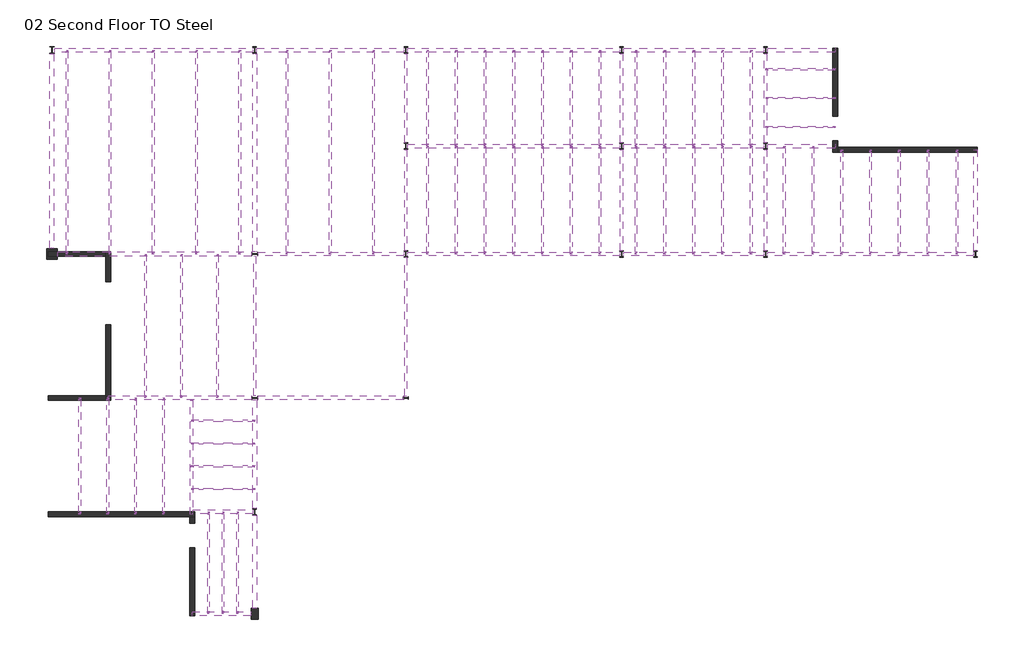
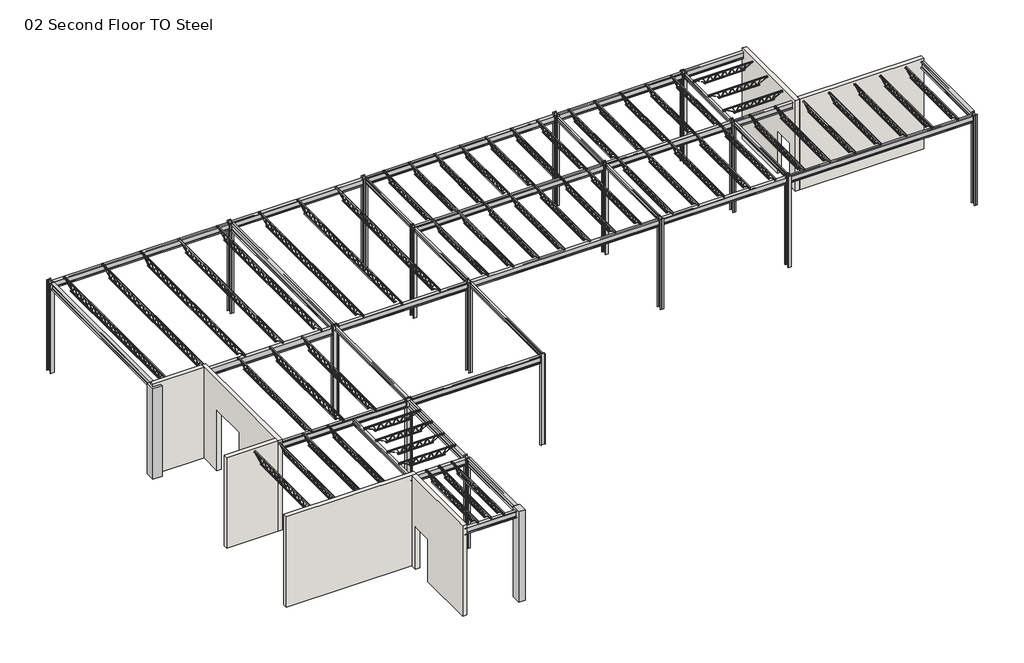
# One storey: 87 beams, 18 columns, 7 walls.
"""IFC4 building model written with IfcOpenShell, lengths in millimetres."""

from ifc_helpers import new_model, si_unit, frame, origin, place, context, project, spatial, polyline, outline, extrude, faceted_brep, transform, mapped, element, save
from components import k_series_bar_joist_angle_web_12k3_1ccca6b7, k_series_bar_joist_angle_web_12k3_bc085ed2, k_series_bar_joist_angle_web_12k3_cd6388da, k_series_bar_joist_angle_web_12k3_13094d3f, k_series_bar_joist_angle_web_12k3_e2e2536a, k_series_bar_joist_angle_web_12k3_59fd12ad, k_series_bar_joist_angle_web_12k3_50cdc32d, k_series_bar_joist_angle_web_12k3_f7e43019, k_series_bar_joist_angle_web_14k6_9ea650d1, k_series_bar_joist_angle_web_14k6_8be7365d, k_series_bar_joist_angle_web_14k6_51fbc8db, w_wide_flange_w12x26_9fd3e897, w_wide_flange_w12x26_d2ca2df1, w_wide_flange_w12x26_3f7f05cf, w_wide_flange_w12x26_1dafd550, w_wide_flange_w12x26_ec9bced6, w_wide_flange_w12x26_57ccea49, w_wide_flange_w12x26_7af0cc8f, w_wide_flange_w12x26_e92df5a3, w_wide_flange_w12x26_cbf4b631, w_wide_flange_w12x26_6214fc0f, w_wide_flange_w12x26_f3c94e94, w_wide_flange_w12x26_b0df8db8, w_wide_flange_w12x26_59120017, w_wide_flange_w12x26_3395753b, w_wide_flange_w12x26_721b4380, w_wide_flange_w14x30_bc8e7e4e, w_wide_flange_w14x30_946aa045, w_wide_flange_w8x10_abd37cec, w_wide_flange_w8x10_7498d693, w_wide_flange_w8x10_a9415ded, w_wide_flange_w8x10_4e543893, w_wide_flange_w8x10_f474adca, column_4a50855d, column_07250704, w_wide_flange_column_w10x30_8d73ec1b, w_wide_flange_column_w12x40_86d17192, w_wide_flange_column_w8x10_6b80fda9

model = new_model("IFC4")

# Units and contexts
model_context = context("Model", 3, world=origin())
ifc_project = project(units=[si_unit("LENGTHUNIT", "METRE", prefix="MILLI")], contexts=[model_context])

# Site, building, storey
site = spatial("IfcSite", under=ifc_project)
building = spatial("IfcBuilding", under=site)
storey = spatial("IfcBuildingStorey", under=building, Name="02 Second Floor TO Steel", Elevation=4445.0)

# Beams
placement = place(None, origin())
k_series_bar_joist_angle_web_12k3_shape = k_series_bar_joist_angle_web_12k3_1ccca6b7(model_context)
element("IfcBeam", 1, ObjectType="K-Series Bar Joist-Angle Web : 12K3", at=placement, inside=storey, context=model_context, shape_type="MappedRepresentation", body=[
    mapped(k_series_bar_joist_angle_web_12k3_shape, transform((3946.8726301, 6964.1746638, 8864.6), x_axis=(0.0, -1.0, 0.0), y_axis=(1.0, 0.0, 0.0), z_axis=(0.0, 0.0, 1.0))),
])
element("IfcBeam", 2, ObjectType="K-Series Bar Joist-Angle Web : 12K3", at=placement, inside=storey, context=model_context, shape_type="MappedRepresentation", body=[
    mapped(k_series_bar_joist_angle_web_12k3_shape, transform((2727.6726301, 6964.1746638, 8864.6), x_axis=(0.0, -1.0, 0.0), y_axis=(1.0, 0.0, 0.0), z_axis=(0.0, 0.0, 1.0))),
])
element("IfcBeam", 3, ObjectType="K-Series Bar Joist-Angle Web : 12K3", at=placement, inside=storey, context=model_context, shape_type="MappedRepresentation", body=[
    mapped(k_series_bar_joist_angle_web_12k3_shape, transform((1508.4726301, 6964.1746638, 8864.6), x_axis=(0.0, -1.0, 0.0), y_axis=(1.0, 0.0, 0.0), z_axis=(0.0, 0.0, 1.0))),
])
element("IfcBeam", 4, ObjectType="K-Series Bar Joist-Angle Web : 12K3", at=placement, inside=storey, context=model_context, shape_type="MappedRepresentation", body=[
    mapped(k_series_bar_joist_angle_web_12k3_shape, transform((289.2726301, 6964.1746638, 8864.6), x_axis=(0.0, -1.0, 0.0), y_axis=(1.0, 0.0, 0.0), z_axis=(0.0, 0.0, 1.0))),
])
element("IfcBeam", 5, ObjectType="K-Series Bar Joist-Angle Web : 12K3", at=placement, inside=storey, context=model_context, shape_type="MappedRepresentation", body=[
    mapped(k_series_bar_joist_angle_web_12k3_shape, transform((-929.9273699, 6964.1746638, 8864.6), x_axis=(0.0, -1.0, 0.0), y_axis=(1.0, 0.0, 0.0), z_axis=(0.0, 0.0, 1.0))),
])
element("IfcBeam", 6, ObjectType="K-Series Bar Joist-Angle Web : 12K3", at=placement, inside=storey, context=model_context, shape_type="MappedRepresentation", body=[
    mapped(k_series_bar_joist_angle_web_12k3_shape, transform((-2149.1273699, 6964.1746638, 8864.6), x_axis=(0.0, -1.0, 0.0), y_axis=(1.0, 0.0, 0.0), z_axis=(0.0, 0.0, 1.0))),
])
element("IfcBeam", 7, ObjectType="K-Series Bar Joist-Angle Web : 12K3", at=placement, inside=storey, context=model_context, shape_type="MappedRepresentation", body=[
    mapped(k_series_bar_joist_angle_web_12k3_shape, transform((-3368.3273699, 6964.1746638, 8864.6), x_axis=(0.0, -1.0, 0.0), y_axis=(1.0, 0.0, 0.0), z_axis=(0.0, 0.0, 1.0))),
])
element("IfcBeam", 8, ObjectType="K-Series Bar Joist-Angle Web : 12K3", at=placement, inside=storey, context=model_context, shape_type="MappedRepresentation", body=[
    mapped(k_series_bar_joist_angle_web_12k3_shape, transform((10347.6726301, 6964.1746638, 8864.6), x_axis=(0.0, -1.0, 0.0), y_axis=(1.0, 0.0, 0.0), z_axis=(0.0, 0.0, 1.0))),
])
element("IfcBeam", 9, ObjectType="K-Series Bar Joist-Angle Web : 12K3", at=placement, inside=storey, context=model_context, shape_type="MappedRepresentation", body=[
    mapped(k_series_bar_joist_angle_web_12k3_shape, transform((9128.4726301, 6964.1746638, 8864.6), x_axis=(0.0, -1.0, 0.0), y_axis=(1.0, 0.0, 0.0), z_axis=(0.0, 0.0, 1.0))),
])
element("IfcBeam", 10, ObjectType="K-Series Bar Joist-Angle Web : 12K3", at=placement, inside=storey, context=model_context, shape_type="MappedRepresentation", body=[
    mapped(k_series_bar_joist_angle_web_12k3_shape, transform((7909.2726301, 6964.1746638, 8864.6), x_axis=(0.0, -1.0, 0.0), y_axis=(1.0, 0.0, 0.0), z_axis=(0.0, 0.0, 1.0))),
])
element("IfcBeam", 11, ObjectType="K-Series Bar Joist-Angle Web : 12K3", at=placement, inside=storey, context=model_context, shape_type="MappedRepresentation", body=[
    mapped(k_series_bar_joist_angle_web_12k3_shape, transform((6690.0726301, 6964.1746638, 8864.6), x_axis=(0.0, -1.0, 0.0), y_axis=(1.0, 0.0, 0.0), z_axis=(0.0, 0.0, 1.0))),
])
element("IfcBeam", 12, ObjectType="K-Series Bar Joist-Angle Web : 12K3", at=placement, inside=storey, context=model_context, shape_type="MappedRepresentation", body=[
    mapped(k_series_bar_joist_angle_web_12k3_shape, transform((5470.8726301, 6964.1746638, 8864.6), x_axis=(0.0, -1.0, 0.0), y_axis=(1.0, 0.0, 0.0), z_axis=(0.0, 0.0, 1.0))),
])
k_series_bar_joist_angle_web_12k3_2_shape = k_series_bar_joist_angle_web_12k3_bc085ed2(model_context)
element("IfcBeam", 13, ObjectType="K-Series Bar Joist-Angle Web : 12K3", at=placement, inside=storey, context=model_context, shape_type="MappedRepresentation", body=[
    mapped(k_series_bar_joist_angle_web_12k3_2_shape, transform((3946.8726301, 2646.1746638, 8864.6), x_axis=(0.0, -1.0, 0.0), y_axis=(1.0, 0.0, 0.0), z_axis=(0.0, 0.0, 1.0))),
])
element("IfcBeam", 14, ObjectType="K-Series Bar Joist-Angle Web : 12K3", at=placement, inside=storey, context=model_context, shape_type="MappedRepresentation", body=[
    mapped(k_series_bar_joist_angle_web_12k3_2_shape, transform((2727.6726301, 2646.1746638, 8864.6), x_axis=(0.0, -1.0, 0.0), y_axis=(1.0, 0.0, 0.0), z_axis=(0.0, 0.0, 1.0))),
])
element("IfcBeam", 15, ObjectType="K-Series Bar Joist-Angle Web : 12K3", at=placement, inside=storey, context=model_context, shape_type="MappedRepresentation", body=[
    mapped(k_series_bar_joist_angle_web_12k3_2_shape, transform((1508.4726301, 2646.1746638, 8864.6), x_axis=(0.0, -1.0, 0.0), y_axis=(1.0, 0.0, 0.0), z_axis=(0.0, 0.0, 1.0))),
])
element("IfcBeam", 16, ObjectType="K-Series Bar Joist-Angle Web : 12K3", at=placement, inside=storey, context=model_context, shape_type="MappedRepresentation", body=[
    mapped(k_series_bar_joist_angle_web_12k3_2_shape, transform((289.2726301, 2646.1746638, 8864.6), x_axis=(0.0, -1.0, 0.0), y_axis=(1.0, 0.0, 0.0), z_axis=(0.0, 0.0, 1.0))),
])
element("IfcBeam", 17, ObjectType="K-Series Bar Joist-Angle Web : 12K3", at=placement, inside=storey, context=model_context, shape_type="MappedRepresentation", body=[
    mapped(k_series_bar_joist_angle_web_12k3_2_shape, transform((-929.9273699, 2646.1746638, 8864.6), x_axis=(0.0, -1.0, 0.0), y_axis=(1.0, 0.0, 0.0), z_axis=(0.0, 0.0, 1.0))),
])
element("IfcBeam", 18, ObjectType="K-Series Bar Joist-Angle Web : 12K3", at=placement, inside=storey, context=model_context, shape_type="MappedRepresentation", body=[
    mapped(k_series_bar_joist_angle_web_12k3_2_shape, transform((-2149.1273699, 2646.1746638, 8864.6), x_axis=(0.0, -1.0, 0.0), y_axis=(1.0, 0.0, 0.0), z_axis=(0.0, 0.0, 1.0))),
])
element("IfcBeam", 19, ObjectType="K-Series Bar Joist-Angle Web : 12K3", at=placement, inside=storey, context=model_context, shape_type="MappedRepresentation", body=[
    mapped(k_series_bar_joist_angle_web_12k3_2_shape, transform((-3368.3273699, 2646.1746638, 8864.6), x_axis=(0.0, -1.0, 0.0), y_axis=(1.0, 0.0, 0.0), z_axis=(0.0, 0.0, 1.0))),
])
element("IfcBeam", 20, ObjectType="K-Series Bar Joist-Angle Web : 12K3", at=placement, inside=storey, context=model_context, shape_type="MappedRepresentation", body=[
    mapped(k_series_bar_joist_angle_web_12k3_2_shape, transform((5470.8726301, 2646.1746638, 8864.6), x_axis=(0.0, 1.0, 0.0), y_axis=(-1.0, 0.0, 0.0), z_axis=(0.0, 0.0, 1.0))),
])
element("IfcBeam", 21, ObjectType="K-Series Bar Joist-Angle Web : 12K3", at=placement, inside=storey, context=model_context, shape_type="MappedRepresentation", body=[
    mapped(k_series_bar_joist_angle_web_12k3_2_shape, transform((6690.0726301, 2646.1746638, 8864.6), x_axis=(0.0, 1.0, 0.0), y_axis=(-1.0, 0.0, 0.0), z_axis=(0.0, 0.0, 1.0))),
])
element("IfcBeam", 22, ObjectType="K-Series Bar Joist-Angle Web : 12K3", at=placement, inside=storey, context=model_context, shape_type="MappedRepresentation", body=[
    mapped(k_series_bar_joist_angle_web_12k3_2_shape, transform((7909.2726301, 2646.1746638, 8864.6), x_axis=(0.0, 1.0, 0.0), y_axis=(-1.0, 0.0, 0.0), z_axis=(0.0, 0.0, 1.0))),
])
element("IfcBeam", 23, ObjectType="K-Series Bar Joist-Angle Web : 12K3", at=placement, inside=storey, context=model_context, shape_type="MappedRepresentation", body=[
    mapped(k_series_bar_joist_angle_web_12k3_2_shape, transform((9128.4726301, 2646.1746638, 8864.6), x_axis=(0.0, 1.0, 0.0), y_axis=(-1.0, 0.0, 0.0), z_axis=(0.0, 0.0, 1.0))),
])
element("IfcBeam", 24, ObjectType="K-Series Bar Joist-Angle Web : 12K3", at=placement, inside=storey, context=model_context, shape_type="MappedRepresentation", body=[
    mapped(k_series_bar_joist_angle_web_12k3_2_shape, transform((10347.6726301, 2646.1746638, 8864.6), x_axis=(0.0, 1.0, 0.0), y_axis=(-1.0, 0.0, 0.0), z_axis=(0.0, 0.0, 1.0))),
])
element("IfcBeam", 25, ObjectType="K-Series Bar Joist-Angle Web : 12K3", at=placement, inside=storey, context=model_context, shape_type="MappedRepresentation", body=[
    mapped(k_series_bar_joist_angle_web_12k3_2_shape, transform((11744.6726301, 2646.1746638, 8864.6), x_axis=(0.0, 1.0, 0.0), y_axis=(-1.0, 0.0, 0.0), z_axis=(0.0, 0.0, 1.0))),
])
element("IfcBeam", 26, ObjectType="K-Series Bar Joist-Angle Web : 12K3", at=placement, inside=storey, context=model_context, shape_type="MappedRepresentation", body=[
    mapped(k_series_bar_joist_angle_web_12k3_2_shape, transform((12963.8726301, 2646.1746638, 8864.6), x_axis=(0.0, 1.0, 0.0), y_axis=(-1.0, 0.0, 0.0), z_axis=(0.0, 0.0, 1.0))),
])
k_series_bar_joist_angle_web_12k3_3_shape = k_series_bar_joist_angle_web_12k3_cd6388da(model_context)
element("IfcBeam", 27, ObjectType="K-Series Bar Joist-Angle Web : 12K3", at=placement, inside=storey, context=model_context, shape_type="MappedRepresentation", body=[
    mapped(k_series_bar_joist_angle_web_12k3_3_shape, transform((-12634.1838699, -12720.8253362, 8864.6), x_axis=(0.0, 1.0, 0.0), y_axis=(-1.0, 0.0, 0.0), z_axis=(0.0, 0.0, 1.0))),
])
element("IfcBeam", 28, ObjectType="K-Series Bar Joist-Angle Web : 12K3", at=placement, inside=storey, context=model_context, shape_type="MappedRepresentation", body=[
    mapped(k_series_bar_joist_angle_web_12k3_3_shape, transform((-12024.5838699, -12720.8253362, 8864.6), x_axis=(0.0, 1.0, 0.0), y_axis=(-1.0, 0.0, 0.0), z_axis=(0.0, 0.0, 1.0))),
])
element("IfcBeam", 29, ObjectType="K-Series Bar Joist-Angle Web : 12K3", at=placement, inside=storey, context=model_context, shape_type="MappedRepresentation", body=[
    mapped(k_series_bar_joist_angle_web_12k3_3_shape, transform((-11414.9838699, -12720.8253362, 8864.6), x_axis=(0.0, 1.0, 0.0), y_axis=(-1.0, 0.0, 0.0), z_axis=(0.0, 0.0, 1.0))),
])
k_series_bar_joist_angle_web_12k3_4_shape = k_series_bar_joist_angle_web_12k3_13094d3f(model_context)
element("IfcBeam", 30, ObjectType="K-Series Bar Joist-Angle Web : 12K3", at=placement, inside=storey, context=model_context, shape_type="MappedRepresentation", body=[
    mapped(k_series_bar_joist_angle_web_12k3_4_shape, transform((12430.4726301, 8183.3746638, 8864.6), x_axis=(1.0, 0.0, 0.0), y_axis=(0.0, 1.0, 0.0), z_axis=(0.0, 0.0, 1.0))),
])
element("IfcBeam", 31, ObjectType="K-Series Bar Joist-Angle Web : 12K3", at=placement, inside=storey, context=model_context, shape_type="MappedRepresentation", body=[
    mapped(k_series_bar_joist_angle_web_12k3_4_shape, transform((12430.4726301, 6964.1746638, 8864.6), x_axis=(1.0, 0.0, 0.0), y_axis=(0.0, 1.0, 0.0), z_axis=(0.0, 0.0, 1.0))),
])
element("IfcBeam", 32, ObjectType="K-Series Bar Joist-Angle Web : 12K3", at=placement, inside=storey, context=model_context, shape_type="MappedRepresentation", body=[
    mapped(k_series_bar_joist_angle_web_12k3_4_shape, transform((12430.4726301, 5744.9746638, 8864.6), x_axis=(1.0, 0.0, 0.0), y_axis=(0.0, 1.0, 0.0), z_axis=(0.0, 0.0, 1.0))),
])
k_series_bar_joist_angle_web_12k3_5_shape = k_series_bar_joist_angle_web_12k3_e2e2536a(model_context)
element("IfcBeam", 33, ObjectType="K-Series Bar Joist-Angle Web : 12K3", at=placement, inside=storey, context=model_context, shape_type="MappedRepresentation", body=[
    mapped(k_series_bar_joist_angle_web_12k3_5_shape, transform((14183.0726301, 2569.9746638, 8864.6), x_axis=(0.0, 1.0, 0.0), y_axis=(-1.0, 0.0, 0.0), z_axis=(0.0, 0.0, 1.0))),
])
element("IfcBeam", 34, ObjectType="K-Series Bar Joist-Angle Web : 12K3", at=placement, inside=storey, context=model_context, shape_type="MappedRepresentation", body=[
    mapped(k_series_bar_joist_angle_web_12k3_5_shape, transform((15402.2726301, 2569.9746638, 8864.6), x_axis=(0.0, 1.0, 0.0), y_axis=(-1.0, 0.0, 0.0), z_axis=(0.0, 0.0, 1.0))),
])
element("IfcBeam", 35, ObjectType="K-Series Bar Joist-Angle Web : 12K3", at=placement, inside=storey, context=model_context, shape_type="MappedRepresentation", body=[
    mapped(k_series_bar_joist_angle_web_12k3_5_shape, transform((16621.4726301, 2569.9746638, 8864.6), x_axis=(0.0, 1.0, 0.0), y_axis=(-1.0, 0.0, 0.0), z_axis=(0.0, 0.0, 1.0))),
])
element("IfcBeam", 36, ObjectType="K-Series Bar Joist-Angle Web : 12K3", at=placement, inside=storey, context=model_context, shape_type="MappedRepresentation", body=[
    mapped(k_series_bar_joist_angle_web_12k3_5_shape, transform((17840.6726301, 2569.9746638, 8864.6), x_axis=(0.0, 1.0, 0.0), y_axis=(-1.0, 0.0, 0.0), z_axis=(0.0, 0.0, 1.0))),
])
element("IfcBeam", 37, ObjectType="K-Series Bar Joist-Angle Web : 12K3", at=placement, inside=storey, context=model_context, shape_type="MappedRepresentation", body=[
    mapped(k_series_bar_joist_angle_web_12k3_5_shape, transform((19059.8726301, 2569.9746638, 8864.6), x_axis=(0.0, 1.0, 0.0), y_axis=(-1.0, 0.0, 0.0), z_axis=(0.0, 0.0, 1.0))),
])
k_series_bar_joist_angle_web_12k3_6_shape = k_series_bar_joist_angle_web_12k3_59fd12ad(model_context)
element("IfcBeam", 38, ObjectType="K-Series Bar Joist-Angle Web : 12K3", at=placement, inside=storey, context=model_context, shape_type="MappedRepresentation", body=[
    mapped(k_series_bar_joist_angle_web_12k3_6_shape, transform((-16907.4925699, -8199.6253362, 8864.6), x_axis=(0.0, 1.0, 0.0), y_axis=(-1.0, 0.0, 0.0), z_axis=(0.0, 0.0, 1.0))),
])
element("IfcBeam", 39, ObjectType="K-Series Bar Joist-Angle Web : 12K3", at=placement, inside=storey, context=model_context, shape_type="MappedRepresentation", body=[
    mapped(k_series_bar_joist_angle_web_12k3_6_shape, transform((-15726.8751699, -8199.6253362, 8864.6), x_axis=(0.0, 1.0, 0.0), y_axis=(-1.0, 0.0, 0.0), z_axis=(0.0, 0.0, 1.0))),
])
element("IfcBeam", 40, ObjectType="K-Series Bar Joist-Angle Web : 12K3", at=placement, inside=storey, context=model_context, shape_type="MappedRepresentation", body=[
    mapped(k_series_bar_joist_angle_web_12k3_6_shape, transform((-14546.2577699, -8199.6253362, 8864.6), x_axis=(0.0, 1.0, 0.0), y_axis=(-1.0, 0.0, 0.0), z_axis=(0.0, 0.0, 1.0))),
])
k_series_bar_joist_angle_web_12k3_7_shape = k_series_bar_joist_angle_web_12k3_50cdc32d(model_context)
element("IfcBeam", 41, ObjectType="K-Series Bar Joist-Angle Web : 12K3", at=placement, inside=storey, context=model_context, shape_type="MappedRepresentation", body=[
    mapped(k_series_bar_joist_angle_web_12k3_7_shape, transform((-12022.6788699, -6701.0253362, 8864.6), x_axis=(1.0, 0.0, 0.0), y_axis=(0.0, 1.0, 0.0), z_axis=(0.0, 0.0, 1.0))),
])
element("IfcBeam", 42, ObjectType="K-Series Bar Joist-Angle Web : 12K3", at=placement, inside=storey, context=model_context, shape_type="MappedRepresentation", body=[
    mapped(k_series_bar_joist_angle_web_12k3_7_shape, transform((-12022.6788699, -7666.2253362, 8864.6), x_axis=(1.0, 0.0, 0.0), y_axis=(0.0, 1.0, 0.0), z_axis=(0.0, 0.0, 1.0))),
])
element("IfcBeam", 43, ObjectType="K-Series Bar Joist-Angle Web : 12K3", at=placement, inside=storey, context=model_context, shape_type="MappedRepresentation", body=[
    mapped(k_series_bar_joist_angle_web_12k3_7_shape, transform((-12022.6788699, -8631.4253362, 8864.6), x_axis=(1.0, 0.0, 0.0), y_axis=(0.0, 1.0, 0.0), z_axis=(0.0, 0.0, 1.0))),
])
element("IfcBeam", 44, ObjectType="K-Series Bar Joist-Angle Web : 12K3", at=placement, inside=storey, context=model_context, shape_type="MappedRepresentation", body=[
    mapped(k_series_bar_joist_angle_web_12k3_7_shape, transform((-12022.6788699, -9596.6253362, 8864.6), x_axis=(1.0, 0.0, 0.0), y_axis=(0.0, 1.0, 0.0), z_axis=(0.0, 0.0, 1.0))),
])
k_series_bar_joist_angle_web_12k3_8_shape = k_series_bar_joist_angle_web_12k3_f7e43019(model_context)
element("IfcBeam", 45, ObjectType="K-Series Bar Joist-Angle Web : 12K3", at=placement, inside=storey, context=model_context, shape_type="MappedRepresentation", body=[
    mapped(k_series_bar_joist_angle_web_12k3_8_shape, transform((-15306.3273699, -2687.8253362, 8864.6), x_axis=(0.0, -1.0, 0.0), y_axis=(1.0, 0.0, 0.0), z_axis=(0.0, 0.0, 1.0))),
])
k_series_bar_joist_angle_web_14k6_shape = k_series_bar_joist_angle_web_14k6_9ea650d1(model_context)
element("IfcBeam", 46, ObjectType="K-Series Bar Joist-Angle Web : 14K6", at=placement, inside=storey, context=model_context, shape_type="MappedRepresentation", body=[
    mapped(k_series_bar_joist_angle_web_14k6_shape, transform((-18633.7273699, 4678.1746638, 8839.2), x_axis=(0.0, 1.0, 0.0), y_axis=(-1.0, 0.0, 0.0), z_axis=(0.0, 0.0, 1.0))),
])
element("IfcBeam", 47, ObjectType="K-Series Bar Joist-Angle Web : 14K6", at=placement, inside=storey, context=model_context, shape_type="MappedRepresentation", body=[
    mapped(k_series_bar_joist_angle_web_14k6_shape, transform((-16804.9273699, 4678.1746638, 8839.2), x_axis=(0.0, 1.0, 0.0), y_axis=(-1.0, 0.0, 0.0), z_axis=(0.0, 0.0, 1.0))),
])
element("IfcBeam", 48, ObjectType="K-Series Bar Joist-Angle Web : 14K6", at=placement, inside=storey, context=model_context, shape_type="MappedRepresentation", body=[
    mapped(k_series_bar_joist_angle_web_14k6_shape, transform((-14976.1273699, 4678.1746638, 8839.2), x_axis=(0.0, 1.0, 0.0), y_axis=(-1.0, 0.0, 0.0), z_axis=(0.0, 0.0, 1.0))),
])
element("IfcBeam", 49, ObjectType="K-Series Bar Joist-Angle Web : 14K6", at=placement, inside=storey, context=model_context, shape_type="MappedRepresentation", body=[
    mapped(k_series_bar_joist_angle_web_14k6_shape, transform((-13147.3273699, 4678.1746638, 8839.2), x_axis=(0.0, 1.0, 0.0), y_axis=(-1.0, 0.0, 0.0), z_axis=(0.0, 0.0, 1.0))),
])
element("IfcBeam", 50, ObjectType="K-Series Bar Joist-Angle Web : 14K6", at=placement, inside=storey, context=model_context, shape_type="MappedRepresentation", body=[
    mapped(k_series_bar_joist_angle_web_14k6_shape, transform((-11318.5273699, 4678.1746638, 8839.2), x_axis=(0.0, 1.0, 0.0), y_axis=(-1.0, 0.0, 0.0), z_axis=(0.0, 0.0, 1.0))),
])
element("IfcBeam", 51, ObjectType="K-Series Bar Joist-Angle Web : 14K6", at=placement, inside=storey, context=model_context, shape_type="MappedRepresentation", body=[
    mapped(k_series_bar_joist_angle_web_14k6_shape, transform((-9311.9273699, 4678.1746638, 8839.2), x_axis=(0.0, 1.0, 0.0), y_axis=(-1.0, 0.0, 0.0), z_axis=(0.0, 0.0, 1.0))),
])
element("IfcBeam", 52, ObjectType="K-Series Bar Joist-Angle Web : 14K6", at=placement, inside=storey, context=model_context, shape_type="MappedRepresentation", body=[
    mapped(k_series_bar_joist_angle_web_14k6_shape, transform((-7483.1273699, 4678.1746638, 8839.2), x_axis=(0.0, 1.0, 0.0), y_axis=(-1.0, 0.0, 0.0), z_axis=(0.0, 0.0, 1.0))),
])
element("IfcBeam", 53, ObjectType="K-Series Bar Joist-Angle Web : 14K6", at=placement, inside=storey, context=model_context, shape_type="MappedRepresentation", body=[
    mapped(k_series_bar_joist_angle_web_14k6_shape, transform((-5654.3273699, 4678.1746638, 8839.2), x_axis=(0.0, 1.0, 0.0), y_axis=(-1.0, 0.0, 0.0), z_axis=(0.0, 0.0, 1.0))),
])
k_series_bar_joist_angle_web_14k6_2_shape = k_series_bar_joist_angle_web_14k6_8be7365d(model_context)
element("IfcBeam", 54, ObjectType="K-Series Bar Joist-Angle Web : 14K6", at=placement, inside=storey, context=model_context, shape_type="MappedRepresentation", body=[
    mapped(k_series_bar_joist_angle_web_14k6_2_shape, transform((-12258.3273699, -2687.8253362, 8839.2), x_axis=(0.0, -1.0, 0.0), y_axis=(1.0, 0.0, 0.0), z_axis=(0.0, 0.0, 1.0))),
])
element("IfcBeam", 55, ObjectType="K-Series Bar Joist-Angle Web : 14K6", at=placement, inside=storey, context=model_context, shape_type="MappedRepresentation", body=[
    mapped(k_series_bar_joist_angle_web_14k6_2_shape, transform((-13782.3273699, -2687.8253362, 8839.2), x_axis=(0.0, -1.0, 0.0), y_axis=(1.0, 0.0, 0.0), z_axis=(0.0, 0.0, 1.0))),
])
k_series_bar_joist_angle_web_14k6_3_shape = k_series_bar_joist_angle_web_14k6_51fbc8db(model_context)
element("IfcBeam", 56, ObjectType="K-Series Bar Joist-Angle Web : 14K6", at=placement, inside=storey, context=model_context, shape_type="MappedRepresentation", body=[
    mapped(k_series_bar_joist_angle_web_14k6_3_shape, transform((-18088.1099699, -8199.6253362, 8839.2), x_axis=(0.0, 1.0, 0.0), y_axis=(-1.0, 0.0, 0.0), z_axis=(0.0, 0.0, 1.0))),
])
w_wide_flange_w12x26_shape = w_wide_flange_w12x26_9fd3e897(model_context)
element("IfcBeam", 57, ObjectType="W-Wide Flange : W12x26", at=placement, inside=storey, context=model_context, shape_type="MappedRepresentation", body=[
    mapped(w_wide_flange_w12x26_shape, transform((7909.2726301, 8996.1746638, 8798.56), x_axis=(1.0, 0.0, 0.0), y_axis=(0.0, 1.0, 0.0), z_axis=(0.0, 0.0, 1.0))),
])
element("IfcBeam", 58, ObjectType="W-Wide Flange : W12x26", at=placement, inside=storey, context=model_context, shape_type="MappedRepresentation", body=[
    mapped(w_wide_flange_w12x26_shape, transform((7909.2726301, 4932.1746638, 8798.56), x_axis=(1.0, 0.0, 0.0), y_axis=(0.0, 1.0, 0.0), z_axis=(0.0, 0.0, 1.0))),
])
element("IfcBeam", 59, ObjectType="W-Wide Flange : W12x26", at=placement, inside=storey, context=model_context, shape_type="MappedRepresentation", body=[
    mapped(w_wide_flange_w12x26_shape, transform((7909.2726301, 360.1746638, 8798.56), x_axis=(-1.0, 0.0, 0.0), y_axis=(0.0, -1.0, 0.0), z_axis=(0.0, 0.0, 1.0))),
])
w_wide_flange_w12x26_2_shape = w_wide_flange_w12x26_d2ca2df1(model_context)
element("IfcBeam", 60, ObjectType="W-Wide Flange : W12x26", at=placement, inside=storey, context=model_context, shape_type="MappedRepresentation", body=[
    mapped(w_wide_flange_w12x26_2_shape, transform((15402.2726301, 360.1746638, 8798.56), x_axis=(1.0, 0.0, 0.0), y_axis=(0.0, 1.0, 0.0), z_axis=(0.0, 0.0, 1.0))),
])
w_wide_flange_w12x26_3_shape = w_wide_flange_w12x26_3f7f05cf(model_context)
element("IfcBeam", 61, ObjectType="W-Wide Flange : W12x26", at=placement, inside=storey, context=model_context, shape_type="MappedRepresentation", body=[
    mapped(w_wide_flange_w12x26_3_shape, transform((-10679.7173699, -8148.8253362, 8798.56), x_axis=(0.0, -1.0, 0.0), y_axis=(1.0, 0.0, 0.0), z_axis=(0.0, 0.0, 1.0))),
])
w_wide_flange_w12x26_4_shape = w_wide_flange_w12x26_1dafd550(model_context)
element("IfcBeam", 62, ObjectType="W-Wide Flange : W12x26", at=placement, inside=storey, context=model_context, shape_type="MappedRepresentation", body=[
    mapped(w_wide_flange_w12x26_4_shape, transform((-14974.2223699, 8996.1746638, 8798.56), x_axis=(1.0, 0.0, 0.0), y_axis=(0.0, 1.0, 0.0), z_axis=(0.0, 0.0, 1.0))),
])
w_wide_flange_w12x26_5_shape = w_wide_flange_w12x26_ec9bced6(model_context)
element("IfcBeam", 63, ObjectType="W-Wide Flange : W12x26", at=placement, inside=storey, context=model_context, shape_type="MappedRepresentation", body=[
    mapped(w_wide_flange_w12x26_5_shape, transform((-10681.6223699, -12720.8253362, 8862.06), x_axis=(0.0008823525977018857, 0.9999996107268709, 0.0), y_axis=(-0.9999996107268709, 0.0008823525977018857, 0.0), z_axis=(0.0, 0.0, 1.0))),
])
w_wide_flange_w12x26_6_shape = w_wide_flange_w12x26_57ccea49(model_context)
element("IfcBeam", 64, ObjectType="W-Wide Flange : W12x26", at=placement, inside=storey, context=model_context, shape_type="MappedRepresentation", body=[
    mapped(w_wide_flange_w12x26_6_shape, transform((-7483.1273699, -5735.8253362, 8798.56), x_axis=(1.0, 0.0, 0.0), y_axis=(0.0, 1.0, 0.0), z_axis=(0.0, 0.0, 1.0))),
])
w_wide_flange_w12x26_7_shape = w_wide_flange_w12x26_7af0cc8f(model_context)
element("IfcBeam", 65, ObjectType="W-Wide Flange : W12x26", at=placement, inside=storey, context=model_context, shape_type="MappedRepresentation", body=[
    mapped(w_wide_flange_w12x26_7_shape, transform((-19268.7273699, 4678.1746638, 8862.06), x_axis=(0.0, 1.0, 0.0), y_axis=(-1.0, 0.0, 0.0), z_axis=(0.0, 0.0, 1.0))),
])
w_wide_flange_w12x26_8_shape = w_wide_flange_w12x26_e92df5a3(model_context)
element("IfcBeam", 66, ObjectType="W-Wide Flange : W12x26", at=placement, inside=storey, context=model_context, shape_type="MappedRepresentation", body=[
    mapped(w_wide_flange_w12x26_8_shape, transform((-12004.3273699, -14879.8253362, 8798.56), x_axis=(-1.0, 0.0, 0.0), y_axis=(0.0, -1.0, 0.0), z_axis=(0.0, 0.0, 1.0))),
])
w_wide_flange_w12x26_9_shape = w_wide_flange_w12x26_cbf4b631(model_context)
element("IfcBeam", 67, ObjectType="W-Wide Flange : W12x26", at=placement, inside=storey, context=model_context, shape_type="MappedRepresentation", body=[
    mapped(w_wide_flange_w12x26_9_shape, transform((12430.4726301, 8996.1746638, 8862.06), x_axis=(1.0, 0.0, 0.0), y_axis=(0.0, 1.0, 0.0), z_axis=(0.0, 0.0, 1.0))),
])
element("IfcBeam", 68, ObjectType="W-Wide Flange : W12x26", at=placement, inside=storey, context=model_context, shape_type="MappedRepresentation", body=[
    mapped(w_wide_flange_w12x26_9_shape, transform((12430.4726301, 4932.1746638, 8798.56), x_axis=(1.0, 0.0, 0.0), y_axis=(0.0, 1.0, 0.0), z_axis=(0.0, 0.0, 1.0))),
])
w_wide_flange_w12x26_10_shape = w_wide_flange_w12x26_6214fc0f(model_context)
element("IfcBeam", 69, ObjectType="W-Wide Flange : W12x26", at=placement, inside=storey, context=model_context, shape_type="MappedRepresentation", body=[
    mapped(w_wide_flange_w12x26_10_shape, transform((19847.2726301, 2569.9746638, 8862.06), x_axis=(0.0, 1.0, 0.0), y_axis=(-1.0, 0.0, 0.0), z_axis=(0.0, 0.0, 1.0))),
])
w_wide_flange_w12x26_11_shape = w_wide_flange_w12x26_f3c94e94(model_context)
element("IfcBeam", 70, ObjectType="W-Wide Flange : W12x26", at=placement, inside=storey, context=model_context, shape_type="MappedRepresentation", body=[
    mapped(w_wide_flange_w12x26_11_shape, transform((-13780.4223699, -5735.8253362, 8798.56), x_axis=(-1.0, 0.0, 0.0), y_axis=(0.0, -1.0, 0.0), z_axis=(0.0, 0.0, 1.0))),
])
w_wide_flange_w12x26_12_shape = w_wide_flange_w12x26_b0df8db8(model_context)
element("IfcBeam", 71, ObjectType="W-Wide Flange : W12x26", at=placement, inside=storey, context=model_context, shape_type="MappedRepresentation", body=[
    mapped(w_wide_flange_w12x26_12_shape, transform((-12022.6788699, -10561.8253362, 8798.56), x_axis=(-1.0, 0.0, 0.0), y_axis=(0.0, -1.0, 0.0), z_axis=(0.0, 0.0, 1.0))),
])
w_wide_flange_w12x26_13_shape = w_wide_flange_w12x26_59120017(model_context)
element("IfcBeam", 72, ObjectType="W-Wide Flange : W12x26", at=placement, inside=storey, context=model_context, shape_type="MappedRepresentation", body=[
    mapped(w_wide_flange_w12x26_13_shape, transform((289.2726301, 8996.1746638, 8798.56), x_axis=(1.0, 0.0, 0.0), y_axis=(0.0, 1.0, 0.0), z_axis=(0.0, 0.0, 1.0))),
])
element("IfcBeam", 73, ObjectType="W-Wide Flange : W12x26", at=placement, inside=storey, context=model_context, shape_type="MappedRepresentation", body=[
    mapped(w_wide_flange_w12x26_13_shape, transform((289.2726301, 4932.1746638, 8798.56), x_axis=(1.0, 0.0, 0.0), y_axis=(0.0, 1.0, 0.0), z_axis=(0.0, 0.0, 1.0))),
])
element("IfcBeam", 74, ObjectType="W-Wide Flange : W12x26", at=placement, inside=storey, context=model_context, shape_type="MappedRepresentation", body=[
    mapped(w_wide_flange_w12x26_13_shape, transform((289.2726301, 360.1746638, 8798.56), x_axis=(-1.0, 0.0, 0.0), y_axis=(0.0, -1.0, 0.0), z_axis=(0.0, 0.0, 1.0))),
])
w_wide_flange_w12x26_14_shape = w_wide_flange_w12x26_3395753b(model_context)
element("IfcBeam", 75, ObjectType="W-Wide Flange : W12x26", at=placement, inside=storey, context=model_context, shape_type="MappedRepresentation", body=[
    mapped(w_wide_flange_w12x26_14_shape, transform((-7481.2223699, 8996.1746638, 8798.56), x_axis=(1.0, 0.0, 0.0), y_axis=(0.0, 1.0, 0.0), z_axis=(0.0, 0.0, 1.0))),
])
w_wide_flange_w12x26_15_shape = w_wide_flange_w12x26_721b4380(model_context)
element("IfcBeam", 76, ObjectType="W-Wide Flange : W12x26", at=placement, inside=storey, context=model_context, shape_type="MappedRepresentation", body=[
    mapped(w_wide_flange_w12x26_15_shape, transform((-7481.2223699, 360.1746638, 8798.56), x_axis=(-1.0, 0.0, 0.0), y_axis=(0.0, -1.0, 0.0), z_axis=(0.0, 0.0, 1.0))),
])
w_wide_flange_w14x30_shape = w_wide_flange_w14x30_bc8e7e4e(model_context)
element("IfcBeam", 77, ObjectType="W-Wide Flange : W14x30", at=placement, inside=storey, context=model_context, shape_type="MappedRepresentation", body=[
    mapped(w_wide_flange_w14x30_shape, transform((-10679.7173699, 4678.1746638, 8841.74), x_axis=(0.0, 1.0, 0.0), y_axis=(-1.0, 0.0, 0.0), z_axis=(0.0, 0.0, 1.0))),
])
w_wide_flange_w14x30_2_shape = w_wide_flange_w14x30_946aa045(model_context)
element("IfcBeam", 78, ObjectType="W-Wide Flange : W14x30", at=placement, inside=storey, context=model_context, shape_type="MappedRepresentation", body=[
    mapped(w_wide_flange_w14x30_2_shape, transform((-14974.2223699, 360.1746638, 8778.24), x_axis=(-1.0, 0.0, 0.0), y_axis=(0.0, -1.0, 0.0), z_axis=(0.0, 0.0, 1.0))),
])
w_wide_flange_w8x10_shape = w_wide_flange_w8x10_abd37cec(model_context)
element("IfcBeam", 79, ObjectType="W-Wide Flange : W8x10", at=placement, inside=storey, context=model_context, shape_type="MappedRepresentation", body=[
    mapped(w_wide_flange_w8x10_shape, transform((-4282.7273699, 6964.1746638, 8916.797), x_axis=(0.0, -1.0, 0.0), y_axis=(1.0, 0.0, 0.0), z_axis=(0.0, 0.0, 1.0))),
])
element("IfcBeam", 80, ObjectType="W-Wide Flange : W8x10", at=placement, inside=storey, context=model_context, shape_type="MappedRepresentation", body=[
    mapped(w_wide_flange_w8x10_shape, transform((4861.2726301, 6964.1746638, 8853.297), x_axis=(0.0, -1.0, 0.0), y_axis=(1.0, 0.0, 0.0), z_axis=(0.0, 0.0, 1.0))),
])
element("IfcBeam", 81, ObjectType="W-Wide Flange : W8x10", at=placement, inside=storey, context=model_context, shape_type="MappedRepresentation", body=[
    mapped(w_wide_flange_w8x10_shape, transform((10957.2726301, 6964.1746638, 8853.297), x_axis=(0.0, -1.0, 0.0), y_axis=(1.0, 0.0, 0.0), z_axis=(0.0, 0.0, 1.0))),
])
w_wide_flange_w8x10_2_shape = w_wide_flange_w8x10_7498d693(model_context)
element("IfcBeam", 82, ObjectType="W-Wide Flange : W8x10", at=placement, inside=storey, context=model_context, shape_type="MappedRepresentation", body=[
    mapped(w_wide_flange_w8x10_2_shape, transform((10957.2726301, 2646.1746638, 8916.797), x_axis=(0.0, 1.0, 0.0), y_axis=(-1.0, 0.0, 0.0), z_axis=(0.0, 0.0, 1.0))),
])
element("IfcBeam", 83, ObjectType="W-Wide Flange : W8x10", at=placement, inside=storey, context=model_context, shape_type="MappedRepresentation", body=[
    mapped(w_wide_flange_w8x10_2_shape, transform((-4282.7273699, 2646.1746638, 8916.797), x_axis=(0.0, 1.0, 0.0), y_axis=(-1.0, 0.0, 0.0), z_axis=(0.0, 0.0, 1.0))),
])
element("IfcBeam", 84, ObjectType="W-Wide Flange : W8x10", at=placement, inside=storey, context=model_context, shape_type="MappedRepresentation", body=[
    mapped(w_wide_flange_w8x10_2_shape, transform((4861.2726301, 2646.1746638, 8916.797), x_axis=(0.0, -1.0, 0.0), y_axis=(1.0, 0.0, 0.0), z_axis=(0.0, 0.0, 1.0))),
])
w_wide_flange_w8x10_3_shape = w_wide_flange_w8x10_a9415ded(model_context)
element("IfcBeam", 85, ObjectType="W-Wide Flange : W8x10", at=placement, inside=storey, context=model_context, shape_type="MappedRepresentation", body=[
    mapped(w_wide_flange_w8x10_3_shape, transform((-4282.7273699, -2687.8253362, 8916.797), x_axis=(0.0, 1.0, 0.0), y_axis=(-1.0, 0.0, 0.0), z_axis=(0.0, 0.0, 1.0))),
])
w_wide_flange_w8x10_4_shape = w_wide_flange_w8x10_4e543893(model_context)
element("IfcBeam", 86, ObjectType="W-Wide Flange : W8x10", at=placement, inside=storey, context=model_context, shape_type="MappedRepresentation", body=[
    mapped(w_wide_flange_w8x10_4_shape, transform((-10679.7173699, -2687.8253362, 8916.797), x_axis=(0.0, 1.0, 0.0), y_axis=(-1.0, 0.0, 0.0), z_axis=(0.0, 0.0, 1.0))),
])
w_wide_flange_w8x10_5_shape = w_wide_flange_w8x10_f474adca(model_context)
element("IfcBeam", 87, ObjectType="W-Wide Flange : W8x10", at=placement, inside=storey, context=model_context, shape_type="MappedRepresentation", body=[
    mapped(w_wide_flange_w8x10_5_shape, transform((-13365.6403699, -8199.6253362, 8853.297), x_axis=(0.0, 1.0, 0.0), y_axis=(-1.0, 0.0, 0.0), z_axis=(0.0, 0.0, 1.0))),
])

# Columns
column_shape = column_4a50855d(model_context)
element("IfcColumn", 88, ObjectType="Concrete-Rectangular-Column : CIP Column_C2_18\" x 18\"", at=placement, inside=storey, context=model_context, shape_type="MappedRepresentation", body=[
    mapped(column_shape, transform((-19268.7273699, 360.1746638, 0.0), x_axis=(1.0, 0.0, 0.0), y_axis=(0.0, 1.0, 0.0), z_axis=(0.0, 0.0, 1.0))),
])
column_2_shape = column_07250704(model_context)
element("IfcColumn", 89, ObjectType="Concrete-Rectangular-Column : CIP Column_C4_12\" x 18\"", at=placement, inside=storey, context=model_context, shape_type="MappedRepresentation", body=[
    mapped(column_2_shape, transform((-10683.5273699, -14879.8253362, 0.0), x_axis=(1.0, 0.0, 0.0), y_axis=(0.0, 1.0, 0.0), z_axis=(0.0, 0.0, 1.0))),
])
w_wide_flange_column_w10x30_shape = w_wide_flange_column_w10x30_8d73ec1b(model_context)
element("IfcColumn", 90, ObjectType="W-Wide Flange-Column : W10X30", at=placement, inside=storey, context=model_context, shape_type="MappedRepresentation", body=[
    mapped(w_wide_flange_column_w10x30_shape, transform((-10679.7173699, 360.1746638, 0.0), x_axis=(0.0, 1.0, 0.0), y_axis=(-1.0, 0.0, 0.0), z_axis=(0.0, 0.0, 1.0))),
])
element("IfcColumn", 91, ObjectType="W-Wide Flange-Column : W10X30", at=placement, inside=storey, context=model_context, shape_type="MappedRepresentation", body=[
    mapped(w_wide_flange_column_w10x30_shape, transform((-10679.7173699, 8996.1746638, 0.0), x_axis=(-1.0, 0.0, 0.0), y_axis=(0.0, -1.0, 0.0), z_axis=(0.0, 0.0, 1.0))),
])
element("IfcColumn", 92, ObjectType="W-Wide Flange-Column : W10X30", at=placement, inside=storey, context=model_context, shape_type="MappedRepresentation", body=[
    mapped(w_wide_flange_column_w10x30_shape, transform((-4282.7273699, 8996.1746638, 0.0), x_axis=(-1.0, 0.0, 0.0), y_axis=(0.0, -1.0, 0.0), z_axis=(0.0, 0.0, 1.0))),
])
element("IfcColumn", 93, ObjectType="W-Wide Flange-Column : W10X30", at=placement, inside=storey, context=model_context, shape_type="MappedRepresentation", body=[
    mapped(w_wide_flange_column_w10x30_shape, transform((4861.2726301, 8996.1746638, 0.0), x_axis=(-1.0, 0.0, 0.0), y_axis=(0.0, -1.0, 0.0), z_axis=(0.0, 0.0, 1.0))),
])
element("IfcColumn", 94, ObjectType="W-Wide Flange-Column : W10X30", at=placement, inside=storey, context=model_context, shape_type="MappedRepresentation", body=[
    mapped(w_wide_flange_column_w10x30_shape, transform((10957.2726301, 8996.1746638, 0.0), x_axis=(-1.0, 0.0, 0.0), y_axis=(0.0, -1.0, 0.0), z_axis=(0.0, 0.0, 1.0))),
])
element("IfcColumn", 95, ObjectType="W-Wide Flange-Column : W10X30", at=placement, inside=storey, context=model_context, shape_type="MappedRepresentation", body=[
    mapped(w_wide_flange_column_w10x30_shape, transform((-10679.7173699, -5735.8253362, 0.0), x_axis=(0.0, 1.0, 0.0), y_axis=(-1.0, 0.0, 0.0), z_axis=(0.0, 0.0, 1.0))),
])
element("IfcColumn", 96, ObjectType="W-Wide Flange-Column : W10X30", at=placement, inside=storey, context=model_context, shape_type="MappedRepresentation", body=[
    mapped(w_wide_flange_column_w10x30_shape, transform((-10679.7173699, -10561.8253362, 0.0), x_axis=(-1.0, 0.0, 0.0), y_axis=(0.0, -1.0, 0.0), z_axis=(0.0, 0.0, 1.0))),
])
element("IfcColumn", 97, ObjectType="W-Wide Flange-Column : W10X30", at=placement, inside=storey, context=model_context, shape_type="MappedRepresentation", body=[
    mapped(w_wide_flange_column_w10x30_shape, transform((-4282.7273699, 360.1746638, 0.0), x_axis=(1.0, 0.0, 0.0), y_axis=(0.0, 1.0, 0.0), z_axis=(0.0, 0.0, 1.0))),
])
element("IfcColumn", 98, ObjectType="W-Wide Flange-Column : W10X30", at=placement, inside=storey, context=model_context, shape_type="MappedRepresentation", body=[
    mapped(w_wide_flange_column_w10x30_shape, transform((4861.2726301, 360.1746638, 0.0), x_axis=(1.0, 0.0, 0.0), y_axis=(0.0, 1.0, 0.0), z_axis=(0.0, 0.0, 1.0))),
])
element("IfcColumn", 99, ObjectType="W-Wide Flange-Column : W10X30", at=placement, inside=storey, context=model_context, shape_type="MappedRepresentation", body=[
    mapped(w_wide_flange_column_w10x30_shape, transform((10957.2726301, 360.1746638, 0.0), x_axis=(1.0, 0.0, 0.0), y_axis=(0.0, 1.0, 0.0), z_axis=(0.0, 0.0, 1.0))),
])
element("IfcColumn", 100, ObjectType="W-Wide Flange-Column : W10X30", at=placement, inside=storey, context=model_context, shape_type="MappedRepresentation", body=[
    mapped(w_wide_flange_column_w10x30_shape, transform((19847.2726301, 360.1746638, 0.0), x_axis=(1.0, 0.0, 0.0), y_axis=(0.0, 1.0, 0.0), z_axis=(0.0, 0.0, 1.0))),
])
element("IfcColumn", 101, ObjectType="W-Wide Flange-Column : W10X30", at=placement, inside=storey, context=model_context, shape_type="MappedRepresentation", body=[
    mapped(w_wide_flange_column_w10x30_shape, transform((-4282.7273699, 4932.1746638, 0.0), x_axis=(1.0, 0.0, 0.0), y_axis=(0.0, 1.0, 0.0), z_axis=(0.0, 0.0, 1.0))),
])
element("IfcColumn", 102, ObjectType="W-Wide Flange-Column : W10X30", at=placement, inside=storey, context=model_context, shape_type="MappedRepresentation", body=[
    mapped(w_wide_flange_column_w10x30_shape, transform((4861.2726301, 4932.1746638, 0.0), x_axis=(1.0, 0.0, 0.0), y_axis=(0.0, 1.0, 0.0), z_axis=(0.0, 0.0, 1.0))),
])
element("IfcColumn", 103, ObjectType="W-Wide Flange-Column : W10X30", at=placement, inside=storey, context=model_context, shape_type="MappedRepresentation", body=[
    mapped(w_wide_flange_column_w10x30_shape, transform((10957.2726301, 4932.1746638, 0.0), x_axis=(1.0, 0.0, 0.0), y_axis=(0.0, 1.0, 0.0), z_axis=(0.0, 0.0, 1.0))),
])
w_wide_flange_column_w12x40_shape = w_wide_flange_column_w12x40_86d17192(model_context)
element("IfcColumn", 104, ObjectType="W-Wide Flange-Column : W12X40", at=placement, inside=storey, context=model_context, shape_type="MappedRepresentation", body=[
    mapped(w_wide_flange_column_w12x40_shape, transform((-19268.7273699, 8996.1746638, 0.0), x_axis=(1.0, 0.0, 0.0), y_axis=(0.0, 1.0, 0.0), z_axis=(0.0, 0.0, 1.0))),
])
w_wide_flange_column_w8x10_shape = w_wide_flange_column_w8x10_6b80fda9(model_context)
element("IfcColumn", 105, ObjectType="W-Wide Flange-Column : W8X10", at=placement, inside=storey, context=model_context, shape_type="MappedRepresentation", body=[
    mapped(w_wide_flange_column_w8x10_shape, transform((-4282.7273699, -5735.8253362, 0.0), x_axis=(0.0, 1.0, 0.0), y_axis=(-1.0, 0.0, 0.0), z_axis=(0.0, 0.0, 1.0))),
])

# Walls
element("IfcWall", 106, ObjectType="Shear Wall_S1_8\" CIP", at=placement, inside=storey, context=model_context, shape_type="Brep", body=[
    faceted_brep([(-16982.7273699, -5837.4253362, 4572.0), (-16982.7273699, -5837.4253362, 9144.0), (-16982.7273699, -5634.2253362, 9144.0), (-16982.7273699, 258.5746638, 9144.0), (-16982.7273699, 461.7746638, 9144.0), (-16982.7273699, 461.7746638, 4572.0), (-16982.7273699, 258.5746638, 4572.0), (-16982.7273699, -808.2253362, 4572.0), (-16982.7273699, -808.2253362, 7620.0), (-16982.7273699, -2637.0253362, 7620.0), (-16982.7273699, -2637.0253362, 4572.0), (-16982.7273699, -5634.2253362, 4572.0), (-16779.5273699, -5837.4253362, 9144.0), (-16779.5273699, -5837.4253362, 4572.0), (-16779.5273699, -2637.0253362, 4572.0), (-16779.5273699, -2637.0253362, 7620.0), (-16779.5273699, -808.2253362, 7620.0), (-16779.5273699, -808.2253362, 4572.0), (-16779.5273699, 461.7746638, 4572.0), (-16779.5273699, 461.7746638, 9144.0)], [[[0, 1, 2, 3, 4, 5, 6, 7, 8, 9, 10, 11]], [[12, 13, 14, 15, 16, 17, 18, 19]], [[13, 0, 11, 10, 14]], [[5, 18, 17, 7, 6]], [[4, 3, 2, 1, 12, 19]], [[8, 16, 15, 9]], [[16, 8, 7, 17]], [[9, 15, 14, 10]], [[1, 0, 13, 12]], [[5, 4, 19, 18]]]),
])
element("IfcWall", 107, ObjectType="Shear Wall_S1_8\" CIP", at=placement, inside=storey, context=model_context, shape_type="SweptSolid", body=[
    extrude(outline(polyline([(-19421.1273699, -5634.2253362), (-16982.7273699, -5634.2253362), (-16982.7273699, -5837.4253362), (-19421.1273699, -5837.4253362), (-19421.1273699, -5634.2253362)])), frame((0.0, 0.0, 4572.0), z_axis=(0.0, 0.0, 1.0), x_axis=(1.0, 0.0, 0.0)), (0.0, 0.0, 1.0), 4572.0),
])
element("IfcWall", 108, ObjectType="Shear Wall_S1_8\" CIP", at=placement, inside=storey, context=model_context, shape_type="Brep", body=[
    faceted_brep([(-19421.1273699, -10765.0253362, 4572.0), (-13426.7273699, -10765.0253362, 4572.0), (-13223.5273699, -10765.0253362, 4572.0), (-13223.5273699, -10765.0253362, 9144.0), (-13426.7273699, -10765.0253362, 9144.0), (-19421.1273699, -10765.0253362, 9144.0), (-19421.1273699, -10561.8253362, 4572.0), (-19421.1273699, -10561.8253362, 9144.0), (-13223.5273699, -10561.8253362, 9144.0), (-13223.5273699, -10561.8253362, 4572.0)], [[[0, 1, 2, 3, 4, 5]], [[6, 7, 8, 9]], [[2, 1, 0, 6, 9]], [[5, 4, 3, 8, 7]], [[0, 5, 7, 6]], [[3, 2, 9, 8]]]),
])
element("IfcWall", 109, ObjectType="Shear Wall_S1_8\" CIP", at=placement, inside=storey, context=model_context, shape_type="SweptSolid", body=[
    extrude(outline(polyline([(-10765.0253362, 9144.0), (-10765.0253362, 4572.0), (-11050.7753362, 4572.0), (-11050.7753362, 6705.6), (-12085.8253362, 6705.6), (-12085.8253362, 4572.0), (-14956.0253362, 4572.0), (-14956.0253362, 9144.0), (-10765.0253362, 9144.0)])), frame((-13426.7273699, 0.0, 0.0), z_axis=(1.0, 0.0, 0.0), x_axis=(0.0, 1.0, 0.0)), (0.0, 0.0, 1.0), 203.2),
])
element("IfcWall", 110, ObjectType="Shear Wall_S1_8\" CIP", at=placement, inside=storey, context=model_context, shape_type="Brep", body=[
    faceted_brep([(13802.0726301, 4678.1746638, 4572.0), (13802.0726301, 4678.1746638, 9144.0), (13802.0726301, 9072.3746638, 9144.0), (13802.0726301, 9072.3746638, 4572.0), (13802.0726301, 6202.1746638, 4572.0), (13802.0726301, 6202.1746638, 6705.6), (13802.0726301, 5167.1246638, 6705.6), (13802.0726301, 5167.1246638, 4572.0), (14005.2726301, 4678.1746638, 9144.0), (14005.2726301, 4678.1746638, 4572.0), (14005.2726301, 4881.3746638, 4572.0), (14005.2726301, 5167.1246638, 4572.0), (14005.2726301, 5167.1246638, 6705.6), (14005.2726301, 6202.1746638, 6705.6), (14005.2726301, 6202.1746638, 4572.0), (14005.2726301, 9072.3746638, 4572.0), (14005.2726301, 9072.3746638, 9144.0), (14005.2726301, 4881.3746638, 9144.0)], [[[0, 1, 2, 3, 4, 5, 6, 7]], [[8, 9, 10, 11, 12, 13, 14, 15, 16, 17]], [[3, 15, 14, 4]], [[9, 0, 7, 11, 10]], [[2, 1, 8, 17, 16]], [[3, 2, 16, 15]], [[5, 13, 12, 6]], [[13, 5, 4, 14]], [[6, 12, 11, 7]], [[1, 0, 9, 8]]]),
])
element("IfcWall", 111, ObjectType="Shear Wall_S1_8\" CIP", at=placement, inside=storey, context=model_context, shape_type="SweptSolid", body=[
    extrude(outline(polyline([(19923.4726301, 4678.1746638), (14005.2726301, 4678.1746638), (14005.2726301, 4881.3746638), (19923.4726301, 4881.3746638), (19923.4726301, 4678.1746638)])), frame((0.0, 0.0, 4572.0), z_axis=(0.0, 0.0, 1.0), x_axis=(1.0, 0.0, 0.0)), (0.0, 0.0, 1.0), 4572.0),
])
element("IfcWall", 112, ObjectType="Shear Wall_S1_8\" CIP", at=placement, inside=storey, context=model_context, shape_type="SweptSolid", body=[
    extrude(outline(polyline([(-16982.7273699, 258.5746638), (-19421.1273699, 258.5746638), (-19421.1273699, 461.7746638), (-16982.7273699, 461.7746638), (-16982.7273699, 258.5746638)])), frame((0.0, 0.0, 4572.0), z_axis=(0.0, 0.0, 1.0), x_axis=(1.0, 0.0, 0.0)), (0.0, 0.0, 1.0), 4572.0),
])

save(model, "model.ifc")
